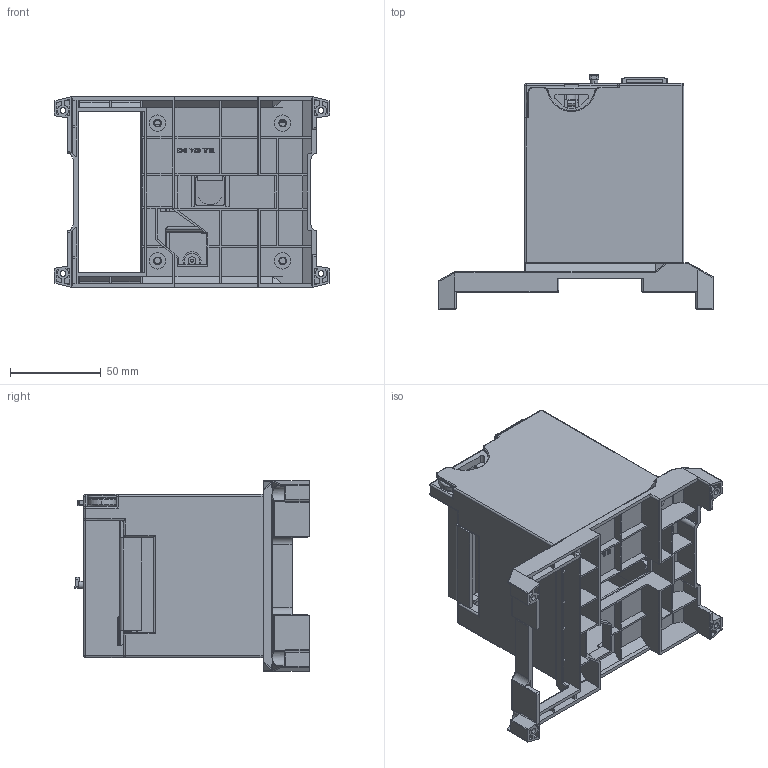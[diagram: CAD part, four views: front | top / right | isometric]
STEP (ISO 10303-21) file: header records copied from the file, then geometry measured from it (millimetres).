
FILE_DESCRIPTION (( 'STEP AP203' ), '1' );
FILE_NAME ('NDM5-250萇雄紱釬儂凳.STEP', '2024-09-23T11:41:55', ( 'A' ), ( '' ), 'SwSTEP 2.0', 'SolidWorks 2018', '' );
FILE_SCHEMA (( 'CONFIG_CONTROL_DESIGN' ));
Length unit declared in the file: millimetre
Products named in the file (11): WL8.024.643 250?ù×ùá¨′¨￠_§__; WF8.253.525; ?§3??té?|?|?; SY5.253.002; 3SY8.261.019; NDM5-250萇雄紱釬儂凳℅‾_迆11_芍___“211; ｨｪ??｡ﾂ??????; CD4???Tè±_à_¨¤; SY8.260.000; SY8.261.007; 3SY8.024.110
Assembly tree (11 placements, depth 3):
  NDM5-250萇雄紱釬儂凳℅‾_迆11_芍___“211
    ?§3??té?|?|?
      SY8.261.007
      3SY8.261.019
    3SY8.024.110
    CD4???Tè±_à_¨¤
    SY8.260.000  x2
    ｨｪ??｡ﾂ??????
    SY5.253.002
    WF8.253.525
    WL8.024.643 250?ù×ùá¨′¨￠_§__
Bounding box: 152 x 129.37 x 105 mm (x, y, z)
Volume: 160892.3 mm3; surface area: 172048.9 mm2
Topology: 10 solids, 10 shells, 1519 faces, 3987 edges, 2478 vertices
Faces by surface type: plane 819, cylinder 482, bspline 89, sphere 72, torus 45, cone 12
Entity records: 50961 total; most frequent: CARTESIAN_POINT 13062, ORIENTED_EDGE 7846, DIRECTION 7376, EDGE_CURVE 3923, VECTOR 2728, LINE 2728, VERTEX_POINT 2470, AXIS2_PLACEMENT_3D 2324
